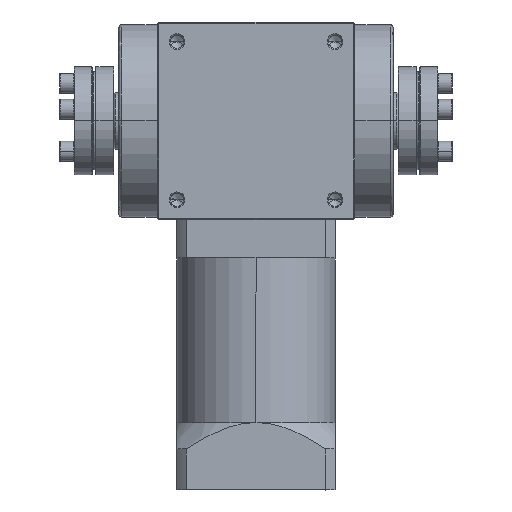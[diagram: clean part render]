
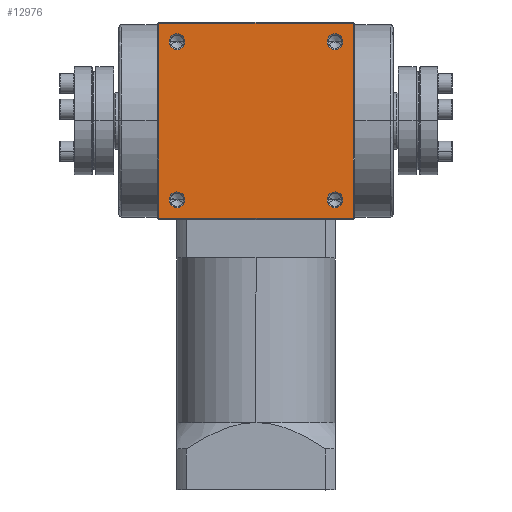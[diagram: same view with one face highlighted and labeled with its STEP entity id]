
A CAD part, top view. The second image highlights one B-rep face of the part: STEP entity #12976.
In plain terms, the highlighted planar face has unit normal (0, 0, 1).
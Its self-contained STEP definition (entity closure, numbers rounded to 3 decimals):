
#39 = FACE_BOUND ( 'NONE', #3494, .T. ) ;
#70 = CARTESIAN_POINT ( 'NONE',  ( 30., -30., 37.5 ) ) ;
#94 = DIRECTION ( 'NONE',  ( 0., 0., 1. ) ) ;
#96 = DIRECTION ( 'NONE',  ( 0., -1., 0. ) ) ;
#107 = VECTOR ( 'NONE', #9259, 1000. ) ;
#109 = FACE_BOUND ( 'NONE', #3382, .T. ) ;
#205 = LINE ( 'NONE', #9385, #107 ) ;
#217 = FACE_BOUND ( 'NONE', #3077, .T. ) ;
#232 = FACE_BOUND ( 'NONE', #3305, .T. ) ;
#313 = ORIENTED_EDGE ( 'NONE', *, *, #1545, .F. ) ;
#329 = FACE_OUTER_BOUND ( 'NONE', #3518, .T. ) ;
#501 = CIRCLE ( 'NONE', #17178, 3. ) ;
#628 = EDGE_CURVE ( 'NONE', #9595, #10822, #4552, .T. ) ;
#670 = ORIENTED_EDGE ( 'NONE', *, *, #1368, .F. ) ;
#833 = CIRCLE ( 'NONE', #15323, 3. ) ;
#1029 = CIRCLE ( 'NONE', #8590, 3. ) ;
#1221 = PLANE ( 'NONE',  #8785 ) ;
#1286 = DIRECTION ( 'NONE',  ( -1., 0., 0. ) ) ;
#1293 = VECTOR ( 'NONE', #6862, 1000. ) ;
#1319 = EDGE_CURVE ( 'NONE', #16026, #16756, #10337, .T. ) ;
#1338 = EDGE_CURVE ( 'NONE', #16850, #8600, #10934, .T. ) ;
#1368 = EDGE_CURVE ( 'NONE', #11140, #4136, #1029, .T. ) ;
#1449 = EDGE_CURVE ( 'NONE', #10822, #9595, #833, .T. ) ;
#1484 = EDGE_CURVE ( 'NONE', #13754, #15558, #501, .T. ) ;
#1517 = ORIENTED_EDGE ( 'NONE', *, *, #1484, .F. ) ;
#1545 = EDGE_CURVE ( 'NONE', #16756, #17648, #205, .T. ) ;
#1583 = CIRCLE ( 'NONE', #10497, 3. ) ;
#2239 = EDGE_CURVE ( 'NONE', #3500, #16026, #16131, .T. ) ;
#2712 = CARTESIAN_POINT ( 'NONE',  ( 37., -37., 37.5 ) ) ;
#2961 = CIRCLE ( 'NONE', #8239, 3. ) ;
#2975 = EDGE_CURVE ( 'NONE', #8600, #16850, #13338, .T. ) ;
#3077 = EDGE_LOOP ( 'NONE', ( #14928, #8579 ) ) ;
#3305 = EDGE_LOOP ( 'NONE', ( #15162, #6702 ) ) ;
#3313 = EDGE_CURVE ( 'NONE', #3500, #17648, #11632, .T. ) ;
#3382 = EDGE_LOOP ( 'NONE', ( #670, #12645 ) ) ;
#3494 = EDGE_LOOP ( 'NONE', ( #1517, #12348 ) ) ;
#3500 = VERTEX_POINT ( 'NONE', #7549 ) ;
#3518 = EDGE_LOOP ( 'NONE', ( #12609, #313, #13161, #5699 ) ) ;
#4008 = DIRECTION ( 'NONE',  ( 0., 0., 1. ) ) ;
#4136 = VERTEX_POINT ( 'NONE', #13883 ) ;
#4552 = CIRCLE ( 'NONE', #7793, 3. ) ;
#5212 = AXIS2_PLACEMENT_3D ( 'NONE', #70, #94, #96 ) ;
#5699 = ORIENTED_EDGE ( 'NONE', *, *, #2239, .F. ) ;
#6562 = DIRECTION ( 'NONE',  ( 0., 0., 1. ) ) ;
#6576 = AXIS2_PLACEMENT_3D ( 'NONE', #7086, #7091, #7113 ) ;
#6702 = ORIENTED_EDGE ( 'NONE', *, *, #2975, .F. ) ;
#6837 = CARTESIAN_POINT ( 'NONE',  ( 0., 37., 37.5 ) ) ;
#6862 = DIRECTION ( 'NONE',  ( 1., 0., 0. ) ) ;
#7086 = CARTESIAN_POINT ( 'NONE',  ( 30., -30., 37.5 ) ) ;
#7091 = DIRECTION ( 'NONE',  ( 0., 0., 1. ) ) ;
#7113 = DIRECTION ( 'NONE',  ( 0., -1., 0. ) ) ;
#7153 = DIRECTION ( 'NONE',  ( 0., 0., 1. ) ) ;
#7350 = CARTESIAN_POINT ( 'NONE',  ( -30., -30., 37.5 ) ) ;
#7372 = DIRECTION ( 'NONE',  ( 0., 0., 1. ) ) ;
#7387 = DIRECTION ( 'NONE',  ( 0., -1., 0. ) ) ;
#7549 = CARTESIAN_POINT ( 'NONE',  ( -37., -37., 37.5 ) ) ;
#7701 = CARTESIAN_POINT ( 'NONE',  ( 37., 37., 37.5 ) ) ;
#7793 = AXIS2_PLACEMENT_3D ( 'NONE', #17795, #7153, #13598 ) ;
#7999 = CARTESIAN_POINT ( 'NONE',  ( 30., -27., 37.5 ) ) ;
#8234 = CARTESIAN_POINT ( 'NONE',  ( 30., 30., 37.5 ) ) ;
#8239 = AXIS2_PLACEMENT_3D ( 'NONE', #12786, #4008, #14203 ) ;
#8254 = DIRECTION ( 'NONE',  ( 0., 0., 1. ) ) ;
#8290 = DIRECTION ( 'NONE',  ( 0., -1., 0. ) ) ;
#8343 = CARTESIAN_POINT ( 'NONE',  ( 30., 33., 37.5 ) ) ;
#8579 = ORIENTED_EDGE ( 'NONE', *, *, #628, .F. ) ;
#8590 = AXIS2_PLACEMENT_3D ( 'NONE', #7350, #7372, #7387 ) ;
#8600 = VERTEX_POINT ( 'NONE', #7999 ) ;
#8785 = AXIS2_PLACEMENT_3D ( 'NONE', #18540, #10162, #1286 ) ;
#8915 = CARTESIAN_POINT ( 'NONE',  ( -30., 30., 37.5 ) ) ;
#8942 = DIRECTION ( 'NONE',  ( 0., 0., 1. ) ) ;
#8948 = DIRECTION ( 'NONE',  ( 0., -1., 0. ) ) ;
#9126 = DIRECTION ( 'NONE',  ( 1., 0., 0. ) ) ;
#9259 = DIRECTION ( 'NONE',  ( 0., -1., 0. ) ) ;
#9385 = CARTESIAN_POINT ( 'NONE',  ( 37., 0., 37.5 ) ) ;
#9595 = VERTEX_POINT ( 'NONE', #8343 ) ;
#10162 = DIRECTION ( 'NONE',  ( 0., 0., -1. ) ) ;
#10337 = LINE ( 'NONE', #6837, #1293 ) ;
#10497 = AXIS2_PLACEMENT_3D ( 'NONE', #15251, #6562, #16661 ) ;
#10557 = EDGE_CURVE ( 'NONE', #15558, #13754, #2961, .T. ) ;
#10750 = CARTESIAN_POINT ( 'NONE',  ( 30., 27., 37.5 ) ) ;
#10822 = VERTEX_POINT ( 'NONE', #10750 ) ;
#10922 = EDGE_CURVE ( 'NONE', #4136, #11140, #1583, .T. ) ;
#10934 = CIRCLE ( 'NONE', #6576, 3. ) ;
#11140 = VERTEX_POINT ( 'NONE', #11669 ) ;
#11598 = VECTOR ( 'NONE', #9126, 1000. ) ;
#11632 = LINE ( 'NONE', #16900, #11598 ) ;
#11669 = CARTESIAN_POINT ( 'NONE',  ( -30., -33., 37.5 ) ) ;
#12348 = ORIENTED_EDGE ( 'NONE', *, *, #10557, .F. ) ;
#12609 = ORIENTED_EDGE ( 'NONE', *, *, #3313, .T. ) ;
#12645 = ORIENTED_EDGE ( 'NONE', *, *, #10922, .F. ) ;
#12786 = CARTESIAN_POINT ( 'NONE',  ( -30., 30., 37.5 ) ) ;
#12976 = ADVANCED_FACE ( 'NONE', ( #39, #217, #109, #232, #329 ), #1221, .F. ) ;
#13088 = CARTESIAN_POINT ( 'NONE',  ( -30., 33., 37.5 ) ) ;
#13161 = ORIENTED_EDGE ( 'NONE', *, *, #1319, .F. ) ;
#13231 = CARTESIAN_POINT ( 'NONE',  ( -30., 27., 37.5 ) ) ;
#13338 = CIRCLE ( 'NONE', #5212, 3. ) ;
#13598 = DIRECTION ( 'NONE',  ( 0., -1., 0. ) ) ;
#13754 = VERTEX_POINT ( 'NONE', #13231 ) ;
#13883 = CARTESIAN_POINT ( 'NONE',  ( -30., -27., 37.5 ) ) ;
#14203 = DIRECTION ( 'NONE',  ( 0., -1., 0. ) ) ;
#14855 = CARTESIAN_POINT ( 'NONE',  ( -37., 37., 37.5 ) ) ;
#14928 = ORIENTED_EDGE ( 'NONE', *, *, #1449, .F. ) ;
#15162 = ORIENTED_EDGE ( 'NONE', *, *, #1338, .F. ) ;
#15251 = CARTESIAN_POINT ( 'NONE',  ( -30., -30., 37.5 ) ) ;
#15323 = AXIS2_PLACEMENT_3D ( 'NONE', #8234, #8254, #8290 ) ;
#15558 = VERTEX_POINT ( 'NONE', #13088 ) ;
#16026 = VERTEX_POINT ( 'NONE', #14855 ) ;
#16074 = VECTOR ( 'NONE', #17265, 1000. ) ;
#16131 = LINE ( 'NONE', #17206, #16074 ) ;
#16508 = CARTESIAN_POINT ( 'NONE',  ( 30., -33., 37.5 ) ) ;
#16661 = DIRECTION ( 'NONE',  ( 0., -1., 0. ) ) ;
#16756 = VERTEX_POINT ( 'NONE', #7701 ) ;
#16850 = VERTEX_POINT ( 'NONE', #16508 ) ;
#16900 = CARTESIAN_POINT ( 'NONE',  ( 0., -37., 37.5 ) ) ;
#17178 = AXIS2_PLACEMENT_3D ( 'NONE', #8915, #8942, #8948 ) ;
#17206 = CARTESIAN_POINT ( 'NONE',  ( -37., 0., 37.5 ) ) ;
#17265 = DIRECTION ( 'NONE',  ( 0., 1., 0. ) ) ;
#17648 = VERTEX_POINT ( 'NONE', #2712 ) ;
#17795 = CARTESIAN_POINT ( 'NONE',  ( 30., 30., 37.5 ) ) ;
#18540 = CARTESIAN_POINT ( 'NONE',  ( 37., -37., 37.5 ) ) ;
